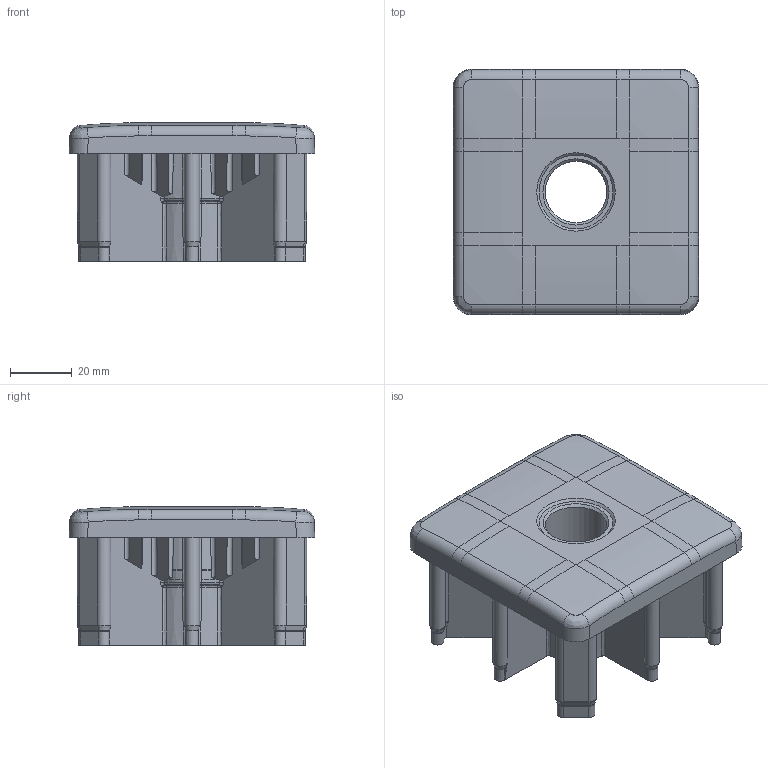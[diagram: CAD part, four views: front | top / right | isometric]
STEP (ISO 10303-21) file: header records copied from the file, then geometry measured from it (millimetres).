
FILE_DESCRIPTION((''),'2;1');
FILE_NAME('Y:\DISEGNI\LIBRERIE_3D\PIEDI\LEVEL_STEP\68_82013.STP','2013-01-24T16:33:55',(''),(''),'STEP Write','Mastercam X5 ... CNC Software, Inc.','');
FILE_SCHEMA(('AUTOMOTIVE_DESIGN'));
Length unit declared in the file: millimetre
Products named in the file (1): None
Bounding box: 79.8 x 79.8 x 45 mm (x, y, z)
Volume: 110861.9 mm3; surface area: 45462.2 mm2
Topology: 2 solids, 19 shells, 720 faces, 1819 edges, 1107 vertices
Faces by surface type: plane 238, bspline 167, cylinder 166, torus 68, cone 43, sphere 38
Full cylindrical faces by diameter (mm): 20 x1, 20.5 x1, 24 x2
Entity records: 28550 total; most frequent: CARTESIAN_POINT 12932, ORIENTED_EDGE 3694, DIRECTION 2794, EDGE_CURVE 1829, VERTEX_POINT 1105, AXIS2_PLACEMENT_3D 1040, EDGE_LOOP 734, ADVANCED_FACE 720
